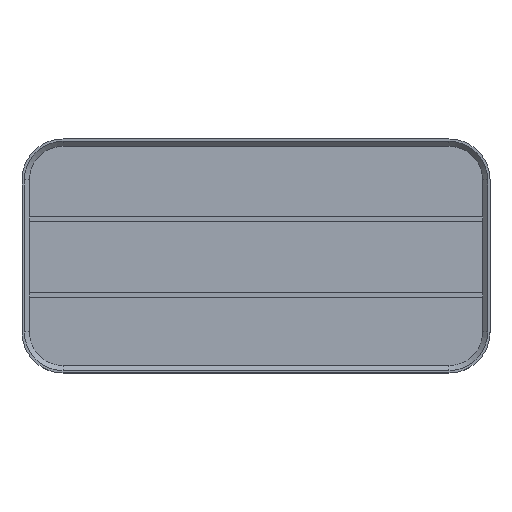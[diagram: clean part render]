
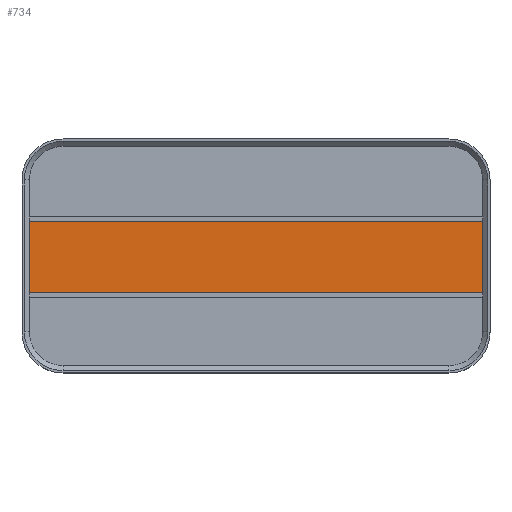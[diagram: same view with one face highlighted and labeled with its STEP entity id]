
A CAD part, top view. The second image highlights one B-rep face of the part: STEP entity #734.
In plain terms, the highlighted planar face has unit normal (0, 0, 1).
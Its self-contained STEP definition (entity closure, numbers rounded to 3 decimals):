
#72=FACE_OUTER_BOUND('',#119,.T.);
#119=EDGE_LOOP('',(#503,#504,#505,#506));
#167=LINE('',#1119,#243);
#173=LINE('',#1130,#249);
#176=LINE('',#1136,#252);
#177=LINE('',#1137,#253);
#243=VECTOR('',#880,10.);
#249=VECTOR('',#890,10.);
#252=VECTOR('',#895,10.);
#253=VECTOR('',#896,10.);
#319=VERTEX_POINT('',#1117);
#320=VERTEX_POINT('',#1118);
#323=VERTEX_POINT('',#1129);
#325=VERTEX_POINT('',#1135);
#383=EDGE_CURVE('',#319,#320,#167,.T.);
#389=EDGE_CURVE('',#319,#323,#173,.T.);
#392=EDGE_CURVE('',#325,#320,#176,.T.);
#393=EDGE_CURVE('',#325,#323,#177,.T.);
#503=ORIENTED_EDGE('',*,*,#383,.T.);
#504=ORIENTED_EDGE('',*,*,#392,.F.);
#505=ORIENTED_EDGE('',*,*,#393,.T.);
#506=ORIENTED_EDGE('',*,*,#389,.F.);
#707=PLANE('',#795);
#734=ADVANCED_FACE('',(#72),#707,.T.);
#795=AXIS2_PLACEMENT_3D('',#1134,#893,#894);
#880=DIRECTION('',(-1.,0.,0.));
#890=DIRECTION('',(0.,-1.,0.));
#893=DIRECTION('center_axis',(0.,0.,1.));
#894=DIRECTION('ref_axis',(1.,0.,0.));
#895=DIRECTION('',(0.,1.,0.));
#896=DIRECTION('',(1.,0.,0.));
#1117=CARTESIAN_POINT('',(191.,62.667,3.));
#1118=CARTESIAN_POINT('',(3.,62.667,3.));
#1119=CARTESIAN_POINT('',(50.,62.667,3.));
#1129=CARTESIAN_POINT('',(191.,33.333,3.));
#1130=CARTESIAN_POINT('',(191.,64.25,3.));
#1134=CARTESIAN_POINT('Origin',(97.,48.5,3.));
#1135=CARTESIAN_POINT('',(3.,33.333,3.));
#1136=CARTESIAN_POINT('',(3.,32.75,3.));
#1137=CARTESIAN_POINT('',(144.,33.333,3.));
